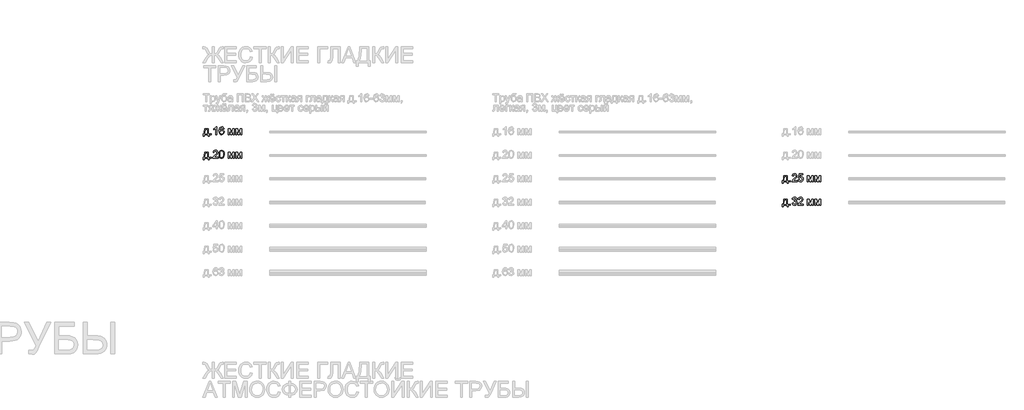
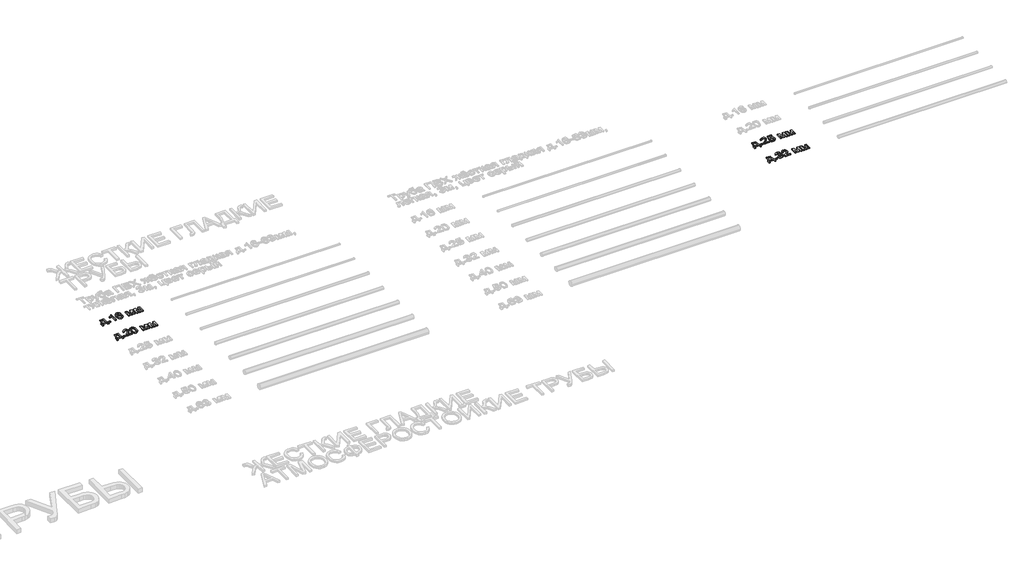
# One storey, part 90 of 98: 4 proxies.
"""IFC4 building model written with IfcOpenShell, lengths in millimetres."""

from ifc_helpers import new_model, si_unit, origin, origin_with_axes, place, context, project, spatial, polyline, outline, extrude, element, save

model = new_model("IFC4")

# Units and contexts
model_context = context("Model", 3, world=origin())
ifc_project = project(units=[si_unit("LENGTHUNIT", "METRE", prefix="MILLI")], contexts=[model_context])

# Site, building, storey
site = spatial("IfcSite", under=ifc_project)
building = spatial("IfcBuilding", under=site)
storey = spatial("IfcBuildingStorey", under=building, Name="Этаж 01", Elevation=0.0)

# Proxies
placement = place(None, origin())
element("IfcBuildingElementProxy", 1, Name="100", ObjectType="100", at=placement, inside=storey, context=model_context, shape_type="SweptSolid", body=[
    extrude(outline(polyline([(-26.9858135, -3563.7647458), (20.1030819, -3563.7647458), (20.1030819, -3624.9803098), (29.520861, -3624.9803098), (29.520861, -3657.9425366), (16.9638222, -3657.9425366), (16.9638222, -3637.5373486), (-34.8339627, -3637.5373486), (-34.8339627, -3657.9425366), (-47.3910015, -3657.9425366), (-47.3910015, -3624.9803098), (-39.5428522, -3624.9803098), (-29.8430303, -3601.031192), (-26.9858135, -3563.7647458)]), holes=[polyline([(-15.9984045, -3576.3217846), (-18.9414605, -3604.9307411), (-25.4161836, -3624.9803098), (7.5460431, -3624.9803098), (7.5460431, -3576.3217846), (-15.9984045, -3576.3217846)])]), origin_with_axes(), (0.0, 0.0, 1.0), 10.0),
    extrude(outline(polyline([(46.7867893, -3637.5373486), (46.7867893, -3624.9803098), (59.3438281, -3624.9803098), (59.3438281, -3637.5373486), (46.7867893, -3637.5373486)])), origin_with_axes(), (0.0, 0.0, 1.0), 10.0),
    extrude(outline(polyline([(126.8379114, -3637.5373486), (114.2808727, -3637.5373486), (114.2808727, -3559.25206), (102.3860215, -3567.7256087), (89.1667951, -3574.0654417), (89.1667951, -3562.195116), (107.5731576, -3550.4474176), (118.7445076, -3537.0810385), (126.8379114, -3537.0810385), (126.8379114, -3637.5373486)])), origin_with_axes(), (0.0, 0.0, 1.0), 10.0),
    extrude(outline(polyline([(221.0157022, -3563.7647458), (208.4586634, -3565.3343757), (203.700723, -3554.8620016), (191.1191587, -3549.6380772), (179.7883933, -3552.6792351), (171.2167428, -3564.0958396), (167.6482874, -3586.4753277), (178.7215355, -3576.4566747), (192.4435339, -3573.1825249), (204.0440795, -3575.4204737), (213.7806896, -3582.1343201), (220.3841715, -3592.3920964), (222.5853321, -3605.2618349), (218.4405282, -3622.5890769), (207.0361864, -3634.85181), (190.5795985, -3639.1069785), (176.3333682, -3636.2865498), (164.9872743, -3627.8252639), (157.5652551, -3612.8892549), (155.0912487, -3590.644657), (157.8381009, -3565.6348127), (166.0786576, -3548.5344312), (177.3297153, -3539.9443867), (191.9039737, -3537.0810385), (202.9220394, -3538.8530034), (211.7450759, -3544.1688982), (217.9254935, -3552.61179), (221.0157022, -3563.7647458)]), holes=[polyline([(167.6482874, -3605.0656312), (170.5545552, -3615.9426755), (178.2800771, -3623.8398757), (189.5985798, -3626.5499397), (197.8851218, -3625.1458567), (204.3996988, -3620.9336079), (208.6211447, -3614.311732), (210.0282933, -3605.6787678), (208.6395388, -3597.3922259), (204.4732752, -3591.0738526), (197.8483336, -3587.0731359), (189.083545, -3585.7395637), (173.8900186, -3591.0738526), (169.2087202, -3597.2389417), (167.6482874, -3605.0656312)])]), origin_with_axes(), (0.0, 0.0, 1.0), 10.0),
    extrude(outline(polyline([(275.9527468, -3563.7647458), (297.5596827, -3563.7647458), (314.2124743, -3622.8220688), (332.1651157, -3563.7647458), (352.8646093, -3563.7647458), (352.8646093, -3637.5373486), (340.3075705, -3637.5373486), (340.3075705, -3578.1366691), (322.2568273, -3637.5373486), (305.7757139, -3637.5373486), (288.5097856, -3575.291715), (288.5097856, -3637.5373486), (275.9527468, -3637.5373486), (275.9527468, -3563.7647458)])), origin_with_axes(), (0.0, 0.0, 1.0), 10.0),
    extrude(outline(polyline([(371.7001674, -3563.7647458), (393.3071033, -3563.7647458), (409.9598949, -3622.8220688), (427.9125363, -3563.7647458), (448.6120299, -3563.7647458), (448.6120299, -3637.5373486), (436.0549911, -3637.5373486), (436.0549911, -3578.1366691), (418.0042479, -3637.5373486), (401.5231345, -3637.5373486), (384.2572062, -3575.291715), (384.2572062, -3637.5373486), (371.7001674, -3637.5373486), (371.7001674, -3563.7647458)])), origin_with_axes(), (0.0, 0.0, 1.0), 10.0),
])
element("IfcBuildingElementProxy", 2, Name="100", ObjectType="100", at=placement, inside=storey, context=model_context, shape_type="SweptSolid", body=[
    extrude(outline(polyline([(-26.9858135, -3863.7647458), (20.1030819, -3863.7647458), (20.1030819, -3924.9803098), (29.520861, -3924.9803098), (29.520861, -3957.9425366), (16.9638222, -3957.9425366), (16.9638222, -3937.5373486), (-34.8339627, -3937.5373486), (-34.8339627, -3957.9425366), (-47.3910015, -3957.9425366), (-47.3910015, -3924.9803098), (-39.5428522, -3924.9803098), (-29.8430303, -3901.031192), (-26.9858135, -3863.7647458)]), holes=[polyline([(-15.9984045, -3876.3217846), (-18.9414605, -3904.9307411), (-25.4161836, -3924.9803098), (7.5460431, -3924.9803098), (7.5460431, -3876.3217846), (-15.9984045, -3876.3217846)])]), origin_with_axes(), (0.0, 0.0, 1.0), 10.0),
    extrude(outline(polyline([(46.7867893, -3937.5373486), (46.7867893, -3924.9803098), (59.3438281, -3924.9803098), (59.3438281, -3937.5373486), (46.7867893, -3937.5373486)])), origin_with_axes(), (0.0, 0.0, 1.0), 10.0),
    extrude(outline(polyline([(144.1038398, -3924.9803098), (144.1038398, -3937.5373486), (78.1793862, -3937.5373486), (79.5282869, -3928.879859), (87.1557069, -3915.550268), (102.8765308, -3900.9944038), (124.5570431, -3880.074181), (129.9771711, -3865.8494105), (124.8636114, -3854.334704), (111.509495, -3849.6380772), (97.5912928, -3854.2243394), (92.3060548, -3866.9040055), (79.7490161, -3865.3343757), (82.7932396, -3853.1881385), (89.3752616, -3844.316051), (99.1517256, -3838.8897916), (111.7792751, -3837.0810385), (124.4987951, -3839.0921267), (134.256865, -3845.1253914), (140.4648737, -3854.1385003), (142.5342099, -3865.089121), (140.3023925, -3876.9962349), (132.8834389, -3889.308019), (114.8940093, -3906.5126337), (100.4485097, -3918.5914259), (94.7831269, -3924.9803098), (144.1038398, -3924.9803098)])), origin_with_axes(), (0.0, 0.0, 1.0), 10.0),
    extrude(outline(polyline([(156.6608785, -3888.1185339), (160.3519612, -3859.2152718), (171.3148447, -3842.5502175), (189.6231053, -3837.0810385), (204.2893342, -3840.3184), (214.4183518, -3849.65034), (220.3044637, -3864.5127726), (222.5853321, -3888.1185339), (218.9310376, -3916.8991687), (208.0049423, -3933.6010113), (199.7735827, -3937.7304867), (189.6231053, -3939.1069785), (176.5755572, -3936.7157455), (166.6672688, -3929.5420466), (159.1624761, -3912.5520298), (156.6608785, -3888.1185339)]), holes=[polyline([(169.2179173, -3888.0940085), (170.6894453, -3907.8462059), (175.1040292, -3919.2781389), (181.6768542, -3924.7319895), (189.6231053, -3926.5499397), (197.5693564, -3924.7258581), (204.1421814, -3919.2536135), (208.5567653, -3907.8155491), (210.0282933, -3888.0940085), (208.6058162, -3868.7863351), (204.3383851, -3857.2654973), (197.7778228, -3851.5449322), (189.4759525, -3849.6380772), (181.6155405, -3851.3180717), (175.3002329, -3856.358055), (170.7384962, -3868.5962627), (169.2179173, -3888.0940085)])]), origin_with_axes(), (0.0, 0.0, 1.0), 10.0),
    extrude(outline(polyline([(275.9527468, -3863.7647458), (297.5596827, -3863.7647458), (314.2124743, -3922.8220688), (332.1651157, -3863.7647458), (352.8646093, -3863.7647458), (352.8646093, -3937.5373486), (340.3075705, -3937.5373486), (340.3075705, -3878.1366691), (322.2568273, -3937.5373486), (305.7757139, -3937.5373486), (288.5097856, -3875.291715), (288.5097856, -3937.5373486), (275.9527468, -3937.5373486), (275.9527468, -3863.7647458)])), origin_with_axes(), (0.0, 0.0, 1.0), 10.0),
    extrude(outline(polyline([(371.7001674, -3863.7647458), (393.3071033, -3863.7647458), (409.9598949, -3922.8220688), (427.9125363, -3863.7647458), (448.6120299, -3863.7647458), (448.6120299, -3937.5373486), (436.0549911, -3937.5373486), (436.0549911, -3878.1366691), (418.0042479, -3937.5373486), (401.5231345, -3937.5373486), (384.2572062, -3875.291715), (384.2572062, -3937.5373486), (371.7001674, -3937.5373486), (371.7001674, -3863.7647458)])), origin_with_axes(), (0.0, 0.0, 1.0), 10.0),
])
element("IfcBuildingElementProxy", 3, Name="100", ObjectType="100", at=placement, inside=storey, context=model_context, shape_type="SweptSolid", body=[
    extrude(outline(polyline([(7373.0141865, -4163.7647458), (7420.1030819, -4163.7647458), (7420.1030819, -4224.9803098), (7429.520861, -4224.9803098), (7429.520861, -4257.9425366), (7416.9638222, -4257.9425366), (7416.9638222, -4237.5373486), (7365.1660373, -4237.5373486), (7365.1660373, -4257.9425366), (7352.6089985, -4257.9425366), (7352.6089985, -4224.9803098), (7360.4571478, -4224.9803098), (7370.1569697, -4201.031192), (7373.0141865, -4163.7647458)]), holes=[polyline([(7384.0015955, -4176.3217846), (7381.0585395, -4204.9307411), (7374.5838164, -4224.9803098), (7407.5460431, -4224.9803098), (7407.5460431, -4176.3217846), (7384.0015955, -4176.3217846)])]), origin_with_axes(), (0.0, 0.0, 1.0), 10.0),
    extrude(outline(polyline([(7446.7867893, -4237.5373486), (7446.7867893, -4224.9803098), (7459.3438281, -4224.9803098), (7459.3438281, -4237.5373486), (7446.7867893, -4237.5373486)])), origin_with_axes(), (0.0, 0.0, 1.0), 10.0),
    extrude(outline(polyline([(7544.1038398, -4224.9803098), (7544.1038398, -4237.5373486), (7478.1793862, -4237.5373486), (7479.5282869, -4228.879859), (7487.1557069, -4215.550268), (7502.8765308, -4200.9944038), (7524.5570431, -4180.074181), (7529.9771711, -4165.8494105), (7524.8636114, -4154.334704), (7511.509495, -4149.6380772), (7497.5912928, -4154.2243394), (7492.3060548, -4166.9040055), (7479.7490161, -4165.3343757), (7482.7932396, -4153.1881385), (7489.3752616, -4144.316051), (7499.1517256, -4138.8897916), (7511.7792751, -4137.0810385), (7524.4987951, -4139.0921267), (7534.256865, -4145.1253914), (7540.4648737, -4154.1385003), (7542.5342099, -4165.089121), (7540.3023925, -4176.9962349), (7532.8834389, -4189.308019), (7514.8940093, -4206.5126337), (7500.4485097, -4218.5914259), (7494.7831269, -4224.9803098), (7544.1038398, -4224.9803098)])), origin_with_axes(), (0.0, 0.0, 1.0), 10.0),
    extrude(outline(polyline([(7556.6608785, -4210.8536412), (7569.2179173, -4209.2840114), (7575.5454876, -4222.2211949), (7588.6666121, -4226.5499397), (7597.6674583, -4225.0446892), (7604.4119615, -4220.5289377), (7608.6242103, -4213.5238514), (7610.0282933, -4204.5505964), (7604.7675808, -4189.6391128), (7598.1610333, -4185.5372286), (7588.8628158, -4184.1699338), (7577.8386187, -4186.3527004), (7570.7875471, -4192.0180831), (7558.2305084, -4190.4484532), (7569.2179173, -4138.6506683), (7617.8764425, -4138.6506683), (7617.8764425, -4151.2077071), (7579.3714604, -4151.2077071), (7574.0003832, -4178.8724331), (7582.9705725, -4173.4277796), (7592.3699575, -4171.6128951), (7604.1023275, -4173.8631066), (7613.8420033, -4180.6137412), (7620.3994999, -4190.9021744), (7622.5853321, -4203.7657815), (7620.6171634, -4216.3228202), (7614.7126574, -4227.0649745), (7603.4064174, -4236.0964775), (7588.6175612, -4239.1069785), (7576.2843173, -4237.1725323), (7566.4588023, -4231.3691938), (7559.7234961, -4222.3714134), (7556.6608785, -4210.8536412)])), origin_with_axes(), (0.0, 0.0, 1.0), 10.0),
    extrude(outline(polyline([(7675.9527468, -4163.7647458), (7697.5596827, -4163.7647458), (7714.2124743, -4222.8220688), (7732.1651157, -4163.7647458), (7752.8646093, -4163.7647458), (7752.8646093, -4237.5373486), (7740.3075705, -4237.5373486), (7740.3075705, -4178.1366691), (7722.2568273, -4237.5373486), (7705.7757139, -4237.5373486), (7688.5097856, -4175.291715), (7688.5097856, -4237.5373486), (7675.9527468, -4237.5373486), (7675.9527468, -4163.7647458)])), origin_with_axes(), (0.0, 0.0, 1.0), 10.0),
    extrude(outline(polyline([(7771.7001674, -4163.7647458), (7793.3071033, -4163.7647458), (7809.9598949, -4222.8220688), (7827.9125363, -4163.7647458), (7848.6120299, -4163.7647458), (7848.6120299, -4237.5373486), (7836.0549911, -4237.5373486), (7836.0549911, -4178.1366691), (7818.0042479, -4237.5373486), (7801.5231345, -4237.5373486), (7784.2572062, -4175.291715), (7784.2572062, -4237.5373486), (7771.7001674, -4237.5373486), (7771.7001674, -4163.7647458)])), origin_with_axes(), (0.0, 0.0, 1.0), 10.0),
])
element("IfcBuildingElementProxy", 4, Name="100", ObjectType="100", at=placement, inside=storey, context=model_context, shape_type="SweptSolid", body=[
    extrude(outline(polyline([(7373.0141865, -4463.7647458), (7420.1030819, -4463.7647458), (7420.1030819, -4524.9803098), (7429.520861, -4524.9803098), (7429.520861, -4557.9425366), (7416.9638222, -4557.9425366), (7416.9638222, -4537.5373486), (7365.1660373, -4537.5373486), (7365.1660373, -4557.9425366), (7352.6089985, -4557.9425366), (7352.6089985, -4524.9803098), (7360.4571478, -4524.9803098), (7370.1569697, -4501.031192), (7373.0141865, -4463.7647458)]), holes=[polyline([(7384.0015955, -4476.3217846), (7381.0585395, -4504.9307411), (7374.5838164, -4524.9803098), (7407.5460431, -4524.9803098), (7407.5460431, -4476.3217846), (7384.0015955, -4476.3217846)])]), origin_with_axes(), (0.0, 0.0, 1.0), 10.0),
    extrude(outline(polyline([(7446.7867893, -4537.5373486), (7446.7867893, -4524.9803098), (7459.3438281, -4524.9803098), (7459.3438281, -4537.5373486), (7446.7867893, -4537.5373486)])), origin_with_axes(), (0.0, 0.0, 1.0), 10.0),
    extrude(outline(polyline([(7479.7490161, -4510.8536412), (7492.3060548, -4509.2840114), (7499.2344991, -4522.5032377), (7512.196208, -4526.5499397), (7520.8046467, -4525.1581195), (7527.4510481, -4520.9826588), (7533.1164308, -4507.1993467), (7527.500099, -4494.2131123), (7513.2262776, -4489.0750271), (7504.4216352, -4490.4484532), (7505.8195868, -4477.8914145), (7507.830675, -4478.0385673), (7522.079971, -4474.4333237), (7526.8256487, -4469.8593242), (7528.4075413, -4463.3478129), (7523.8212791, -4453.5253636), (7512.0000043, -4449.6380772), (7500.0315767, -4453.5621518), (7493.8756847, -4465.3343757), (7481.3186459, -4463.7647458), (7485.01586, -4452.4891627), (7491.5948163, -4444.0707964), (7500.5956625, -4438.8284779), (7511.5585459, -4437.0810385), (7526.7030214, -4440.5268665), (7537.2980228, -4449.9446456), (7540.9645801, -4462.6120489), (7537.4819638, -4474.188069), (7527.181268, -4482.5022021), (7540.8664782, -4491.0861154), (7545.6734696, -4507.4200759), (7543.2699739, -4519.6582836), (7536.0594868, -4529.8854031), (7525.1763111, -4536.8015846), (7511.7547496, -4539.1069785), (7499.6146438, -4537.1388098), (7489.7308809, -4531.2343038), (7482.8576189, -4522.2028008), (7479.7490161, -4510.8536412)])), origin_with_axes(), (0.0, 0.0, 1.0), 10.0),
    extrude(outline(polyline([(7621.0157022, -4524.9803098), (7621.0157022, -4537.5373486), (7555.0912487, -4537.5373486), (7556.4401493, -4528.879859), (7564.0675694, -4515.550268), (7579.7883933, -4500.9944038), (7601.4689055, -4480.074181), (7606.8890336, -4465.8494105), (7601.7754739, -4454.334704), (7588.4213574, -4449.6380772), (7574.5031553, -4454.2243394), (7569.2179173, -4466.9040055), (7556.6608785, -4465.3343757), (7559.705102, -4453.1881385), (7566.2871241, -4444.316051), (7576.0635881, -4438.8897916), (7588.6911376, -4437.0810385), (7601.4106576, -4439.0921267), (7611.1687275, -4445.1253914), (7617.3767361, -4454.1385003), (7619.4460724, -4465.089121), (7617.2142549, -4476.9962349), (7609.7953014, -4489.308019), (7591.8058718, -4506.5126337), (7577.3603721, -4518.5914259), (7571.6949894, -4524.9803098), (7621.0157022, -4524.9803098)])), origin_with_axes(), (0.0, 0.0, 1.0), 10.0),
    extrude(outline(polyline([(7675.9527468, -4463.7647458), (7697.5596827, -4463.7647458), (7714.2124743, -4522.8220688), (7732.1651157, -4463.7647458), (7752.8646093, -4463.7647458), (7752.8646093, -4537.5373486), (7740.3075705, -4537.5373486), (7740.3075705, -4478.1366691), (7722.2568273, -4537.5373486), (7705.7757139, -4537.5373486), (7688.5097856, -4475.291715), (7688.5097856, -4537.5373486), (7675.9527468, -4537.5373486), (7675.9527468, -4463.7647458)])), origin_with_axes(), (0.0, 0.0, 1.0), 10.0),
    extrude(outline(polyline([(7771.7001674, -4463.7647458), (7793.3071033, -4463.7647458), (7809.9598949, -4522.8220688), (7827.9125363, -4463.7647458), (7848.6120299, -4463.7647458), (7848.6120299, -4537.5373486), (7836.0549911, -4537.5373486), (7836.0549911, -4478.1366691), (7818.0042479, -4537.5373486), (7801.5231345, -4537.5373486), (7784.2572062, -4475.291715), (7784.2572062, -4537.5373486), (7771.7001674, -4537.5373486), (7771.7001674, -4463.7647458)])), origin_with_axes(), (0.0, 0.0, 1.0), 10.0),
])

save(model, "model.ifc")
